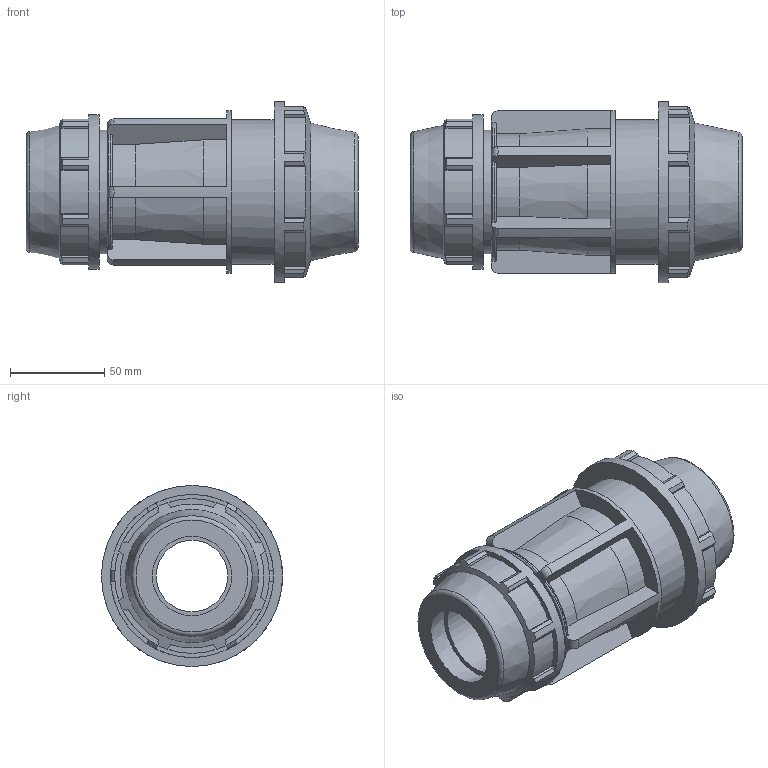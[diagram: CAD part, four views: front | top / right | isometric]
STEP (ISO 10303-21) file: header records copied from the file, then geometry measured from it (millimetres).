
FILE_DESCRIPTION(/* description */ ('PLASSON REDUCING COUPLER 1 1/2'''' - 1 1/4'''''),/* implementation_level */ '2;1');
FILE_NAME(/* name */ 'C:\Dropbox\KIMPROJECTS-Inventor 2019\99-16-3568-Processing Inch\ASTM Compression 2021\0711M0\0711M0015013.ipt.stp',/* time_stamp */ '2021-08-26T12:32:55+03:00',/* author */ ('KIM'),/* organization */ (''),/* preprocessor_version */ 'ST-DEVELOPER v17.2',/* originating_system */ 'Autodesk Inventor 2019',/* authorisation */ '');
FILE_SCHEMA (('AUTOMOTIVE_DESIGN { 1 0 10303 214 3 1 1 }'));
Length unit declared in the file: inch
Products named in the file (1): 0711M0015013
Bounding box: 176 x 96.01 x 96.01 mm (x, y, z)
Volume: 464394.4 mm3; surface area: 91350.4 mm2
Topology: 1 solids, 1 shells, 189 faces, 562 edges, 383 vertices
Faces by surface type: plane 114, cylinder 47, cone 14, torus 14
Full cylindrical faces by diameter (mm): 42.1 x1, 48.1 x1, 65.634 x1, 76.81 x1, 82.042 x1, 86.411 x1, 96.012 x1
Entity records: 6809 total; most frequent: CARTESIAN_POINT 1475, ORIENTED_EDGE 1124, DIRECTION 1047, EDGE_CURVE 562, VERTEX_POINT 383, AXIS2_PLACEMENT_3D 375, LINE 297, VECTOR 297
